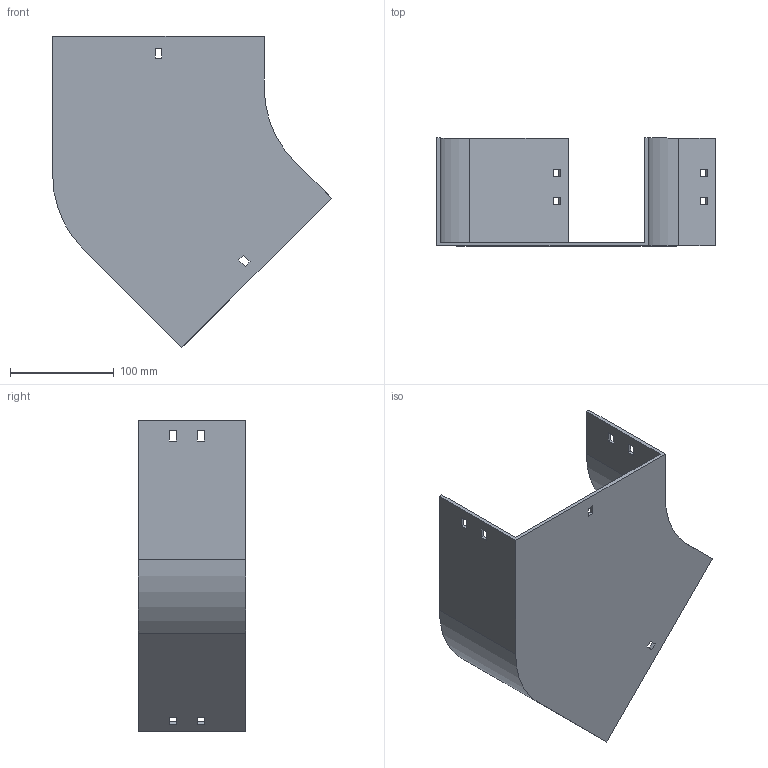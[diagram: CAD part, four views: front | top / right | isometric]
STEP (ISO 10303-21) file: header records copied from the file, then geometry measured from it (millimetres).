
FILE_DESCRIPTION (( 'STEP AP214' ), '1' );
FILE_NAME ('11B1D200.step', '2025-02-21T09:36:39', ( '' ), ( '' ), 'SwSTEP 2.0', 'SolidWorks 2023', '' );
FILE_SCHEMA (( 'AUTOMOTIVE_DESIGN' ));
Length unit declared in the file: millimetre
Products named in the file (1): 11B1D200
Bounding box: 268.64 x 104 x 300.32 mm (x, y, z)
Volume: 373561.1 mm3; surface area: 219308.8 mm2
Topology: 1 solids, 1 shells, 58 faces, 168 edges, 112 vertices
Faces by surface type: plane 54, cylinder 4
Entity records: 1943 total; most frequent: CARTESIAN_POINT 339, ORIENTED_EDGE 336, DIRECTION 294, EDGE_CURVE 168, LINE 160, VECTOR 160, VERTEX_POINT 112, EDGE_LOOP 78
